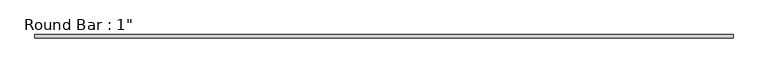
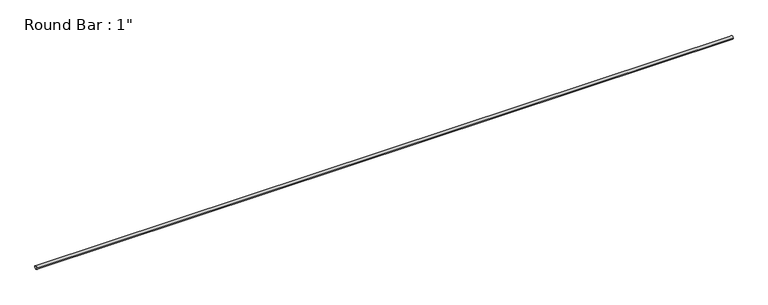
"""IFC4 building model written with IfcOpenShell, lengths in millimetres: member geometry."""

from ifc_helpers import new_model, si_unit, point, frame, origin, origin_2d, place, context, project, spatial, circle_curve, trimmed, segment, composite_curve, outline, extrude, source, transform, mapped, element, save


def member_7c849a12(model_context):
    return source(origin(), model_context, "Body", "SweptSolid", [
        extrude(outline(composite_curve([segment(trimmed(circle_curve(origin_2d(), 12.7), [point((-12.7, 0.0))], [point((12.7, 0.0))], False, "CARTESIAN"), True, "CONTINUOUS"), segment(trimmed(circle_curve(origin_2d(), 12.7), [point((12.7, 0.0))], [point((-12.7, 0.0))], False, "CARTESIAN"), True, "CONTINUOUS")], self_intersect=False)), frame((-2760.4770887, 0.0, 0.0), z_axis=(1.0, 0.0, 0.0), x_axis=(0.0, 1.0, 0.0)), (0.0, 0.0, 1.0), 5352.3844213),
    ])


if __name__ == "__main__":
    model = new_model("IFC4")
    model_context = context("Model", 3, world=origin())
    ifc_project = project(units=[si_unit("LENGTHUNIT", "METRE", prefix="MILLI")], contexts=[model_context])
    site = spatial("IfcSite", under=ifc_project)
    building = spatial("IfcBuilding", under=site)
    placement = place(None, origin())
    member_shape = member_7c849a12(model_context)
    element("IfcMember", 1, ObjectType="Round Bar : 1\"", at=placement, inside=building, context=model_context, shape_type="MappedRepresentation", body=[
        mapped(member_shape, transform((0.0, 0.0, 0.0), x_axis=(1.0, 0.0, 0.0), y_axis=(0.0, 1.0, 0.0), z_axis=(0.0, 0.0, 1.0))),
    ])
    save(model, "model.ifc")
